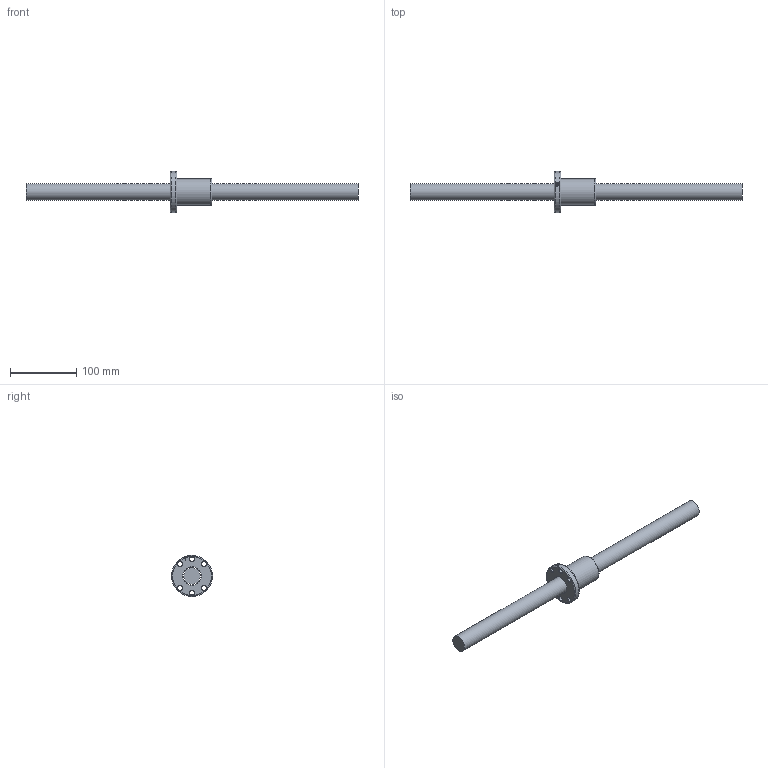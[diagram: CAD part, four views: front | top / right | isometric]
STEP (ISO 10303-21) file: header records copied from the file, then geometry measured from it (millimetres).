
FILE_DESCRIPTION (( 'STEP AP203' ), '1' );
FILE_NAME ('SFU02508N-4.step', '2024-05-14T06:01:24', ( '' ), ( '' ), 'SwSTEP 2.0', 'SolidWorks 2022', '' );
FILE_SCHEMA (( 'CONFIG_CONTROL_DESIGN' ));
Length unit declared in the file: millimetre
Products named in the file (1): SFU02508N-4
Bounding box: 500 x 62 x 62 mm (x, y, z)
Volume: 301461.3 mm3; surface area: 59833.3 mm2
Topology: 2 solids, 2 shells, 45 faces, 103 edges, 63 vertices
Faces by surface type: cylinder 18, cone 13, plane 6, bspline 5, torus 3
Full cylindrical faces by diameter (mm): 4 x1, 5 x6, 6.6 x6, 25 x1, 27.6 x1, 40 x1, 62 x1
Entity records: 2703 total; most frequent: CARTESIAN_POINT 1908, DIRECTION 148, ORIENTED_EDGE 102, EDGE_LOOP 84, AXIS2_PLACEMENT_3D 72, FACE_OUTER_BOUND 54, EDGE_CURVE 51, VERTEX_POINT 47
